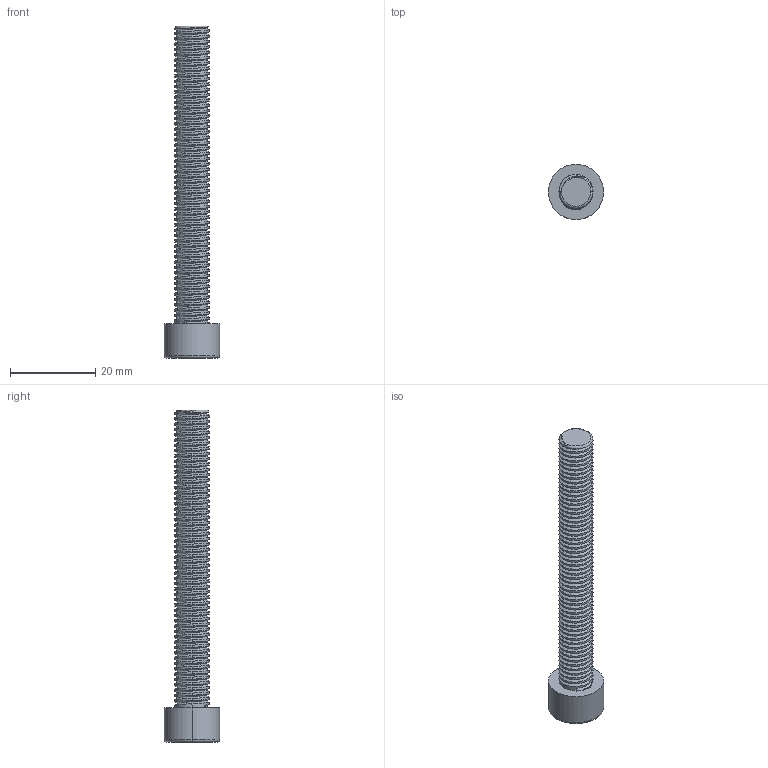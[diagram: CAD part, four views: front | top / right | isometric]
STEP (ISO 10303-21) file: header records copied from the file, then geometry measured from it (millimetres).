
FILE_DESCRIPTION (( 'STEP AP203' ), '1' );
FILE_NAME ('150-CE-HSN-M8.STEP', '2015-07-09T09:06:20', ( '' ), ( '' ), 'SwSTEP 2.0', 'SolidWorks 2013', '' );
FILE_SCHEMA (( 'CONFIG_CONTROL_DESIGN' ));
Length unit declared in the file: millimetre
Products named in the file (1): 150-CE-HSN-M8
Bounding box: 13 x 13 x 78 mm (x, y, z)
Volume: 4101.6 mm3; surface area: 3328.7 mm2
Topology: 1 solids, 1 shells, 135 faces, 390 edges, 259 vertices
Faces by surface type: cylinder 115, plane 11, torus 6, bspline 3
Entity records: 10322 total; most frequent: CARTESIAN_POINT 7376, ORIENTED_EDGE 780, DIRECTION 441, EDGE_CURVE 390, VERTEX_POINT 259, AXIS2_PLACEMENT_3D 152, VECTOR 137, LINE 137
